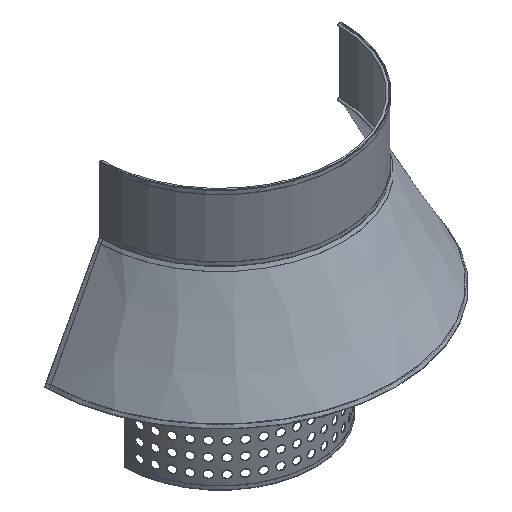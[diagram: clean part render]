
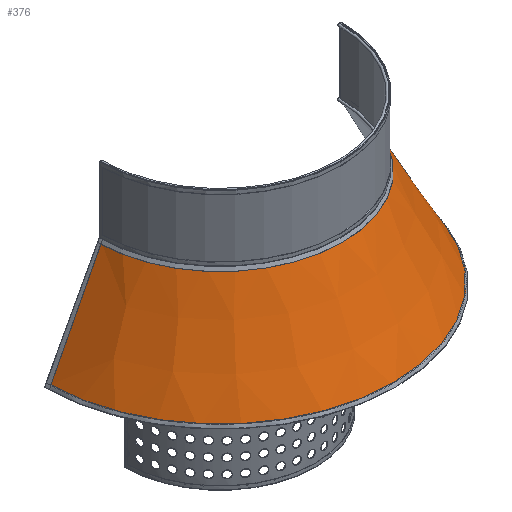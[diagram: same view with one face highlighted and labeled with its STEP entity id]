
A CAD part, isometric view. The second image highlights one B-rep face of the part: STEP entity #376.
In plain terms, the highlighted conical face has half-angle 28.179 degrees and reference radius 165 mm.
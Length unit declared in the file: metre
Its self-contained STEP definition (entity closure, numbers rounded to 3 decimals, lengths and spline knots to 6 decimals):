
#376 = ADVANCED_FACE( '', ( #643 ), #644, .T. );
#643 = FACE_OUTER_BOUND( '', #1702, .T. );
#644 = CONICAL_SURFACE( '', #1703, 0.165, 0.492 );
#1702 = EDGE_LOOP( '', ( #2812, #2813, #2814, #2815 ) );
#1703 = AXIS2_PLACEMENT_3D( '', #2816, #2817, #2818 );
#2812 = ORIENTED_EDGE( '', *, *, #4583, .T. );
#2813 = ORIENTED_EDGE( '', *, *, #4597, .F. );
#2814 = ORIENTED_EDGE( '', *, *, #4588, .F. );
#2815 = ORIENTED_EDGE( '', *, *, #4596, .T. );
#2816 = CARTESIAN_POINT( '', ( 0., 0., 0.0245 ) );
#2817 = DIRECTION( '', ( 0., 0., -1. ) );
#2818 = DIRECTION( '', ( -1., 0., 0. ) );
#4583 = EDGE_CURVE( '', #5147, #5145, #5148, .T. );
#4588 = EDGE_CURVE( '', #5155, #5157, #5158, .T. );
#4596 = EDGE_CURVE( '', #5155, #5147, #5168, .T. );
#4597 = EDGE_CURVE( '', #5157, #5145, #5169, .T. );
#5145 = VERTEX_POINT( '', #6155 );
#5147 = VERTEX_POINT( '', #6158 );
#5148 = LINE( '', #6159, #6160 );
#5155 = VERTEX_POINT( '', #6170 );
#5157 = VERTEX_POINT( '', #6173 );
#5158 = LINE( '', #6174, #6175 );
#5168 = CIRCLE( '', #6188, 0.165 );
#5169 = CIRCLE( '', #6189, 0.24 );
#6155 = CARTESIAN_POINT( '', ( -0.24, 0., -0.1155 ) );
#6158 = CARTESIAN_POINT( '', ( -0.165, 0., 0.0245 ) );
#6159 = CARTESIAN_POINT( '', ( -0.165, 0., 0.0245 ) );
#6160 = VECTOR( '', #33563, 1. );
#6170 = CARTESIAN_POINT( '', ( 0.165, 0., 0.0245 ) );
#6173 = CARTESIAN_POINT( '', ( 0.24, 0., -0.1155 ) );
#6174 = CARTESIAN_POINT( '', ( 0.165, 0., 0.0245 ) );
#6175 = VECTOR( '', #33568, 1. );
#6188 = AXIS2_PLACEMENT_3D( '', #33584, #33585, #33586 );
#6189 = AXIS2_PLACEMENT_3D( '', #33587, #33588, #33589 );
#33563 = DIRECTION( '', ( -0.472, 0., -0.881 ) );
#33568 = DIRECTION( '', ( 0.472, 0., -0.881 ) );
#33584 = CARTESIAN_POINT( '', ( 0., 0., 0.0245 ) );
#33585 = DIRECTION( '', ( 0., 0., -1. ) );
#33586 = DIRECTION( '', ( -1., 0., 0. ) );
#33587 = CARTESIAN_POINT( '', ( 0., 0., -0.1155 ) );
#33588 = DIRECTION( '', ( 0., 0., -1. ) );
#33589 = DIRECTION( '', ( -1., 0., 0. ) );
